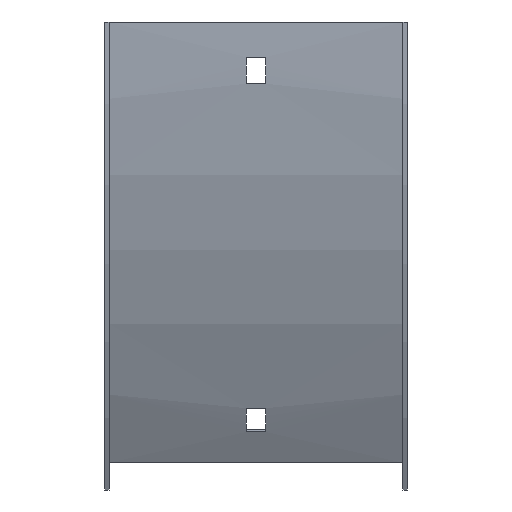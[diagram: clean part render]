
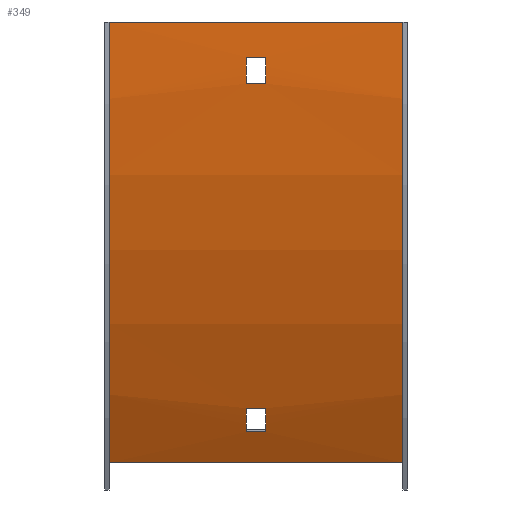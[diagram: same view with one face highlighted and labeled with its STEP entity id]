
A CAD part, front view. The second image highlights one B-rep face of the part: STEP entity #349.
In plain terms, the highlighted cylindrical face has radius 300 mm (diameter 600 mm), a partial arc.
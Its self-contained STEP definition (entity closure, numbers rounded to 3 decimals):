
#5 = LINE ( 'NONE', #237, #200 ) ;
#7 = CARTESIAN_POINT ( 'NONE',  ( 3.25, -1.26, -12. ) ) ;
#11 = DIRECTION ( 'NONE',  ( -1., 0., 0. ) ) ;
#14 = ORIENTED_EDGE ( 'NONE', *, *, #136, .F. ) ;
#15 = CARTESIAN_POINT ( 'NONE',  ( 50., 38.692, -150. ) ) ;
#28 = CIRCLE ( 'NONE', #104, 300. ) ;
#31 = VERTEX_POINT ( 'NONE', #15 ) ;
#36 = AXIS2_PLACEMENT_3D ( 'NONE', #372, #356, #548 ) ;
#38 = DIRECTION ( 'NONE',  ( 1., 0., 0. ) ) ;
#46 = ORIENTED_EDGE ( 'NONE', *, *, #77, .F. ) ;
#49 = CARTESIAN_POINT ( 'NONE',  ( 51.5, 32.9, -139.488 ) ) ;
#53 = ORIENTED_EDGE ( 'NONE', *, *, #341, .F. ) ;
#68 = VERTEX_POINT ( 'NONE', #113 ) ;
#77 = EDGE_CURVE ( 'NONE', #135, #309, #112, .T. ) ;
#78 = VECTOR ( 'NONE', #520, 1000. ) ;
#88 = CARTESIAN_POINT ( 'NONE',  ( -3.25, 32.9, -139.488 ) ) ;
#89 = DIRECTION ( 'NONE',  ( -1., 0., 0. ) ) ;
#92 = LINE ( 'NONE', #429, #78 ) ;
#98 = CARTESIAN_POINT ( 'NONE',  ( 3.25, -0.764, -21. ) ) ;
#104 = AXIS2_PLACEMENT_3D ( 'NONE', #415, #315, #167 ) ;
#105 = CARTESIAN_POINT ( 'NONE',  ( -50., -1.5, 0. ) ) ;
#110 = AXIS2_PLACEMENT_3D ( 'NONE', #186, #11, #571 ) ;
#112 = CIRCLE ( 'NONE', #141, 300. ) ;
#113 = CARTESIAN_POINT ( 'NONE',  ( 50., -1.5, 0. ) ) ;
#122 = ORIENTED_EDGE ( 'NONE', *, *, #468, .F. ) ;
#132 = CARTESIAN_POINT ( 'NONE',  ( -3.25, 298.5, 0. ) ) ;
#134 = DIRECTION ( 'NONE',  ( -1., 0., 0. ) ) ;
#135 = VERTEX_POINT ( 'NONE', #327 ) ;
#136 = EDGE_CURVE ( 'NONE', #498, #401, #92, .T. ) ;
#141 = AXIS2_PLACEMENT_3D ( 'NONE', #326, #428, #197 ) ;
#149 = ORIENTED_EDGE ( 'NONE', *, *, #274, .F. ) ;
#157 = VERTEX_POINT ( 'NONE', #98 ) ;
#161 = EDGE_CURVE ( 'NONE', #541, #330, #28, .T. ) ;
#162 = DIRECTION ( 'NONE',  ( 0., 0., 1. ) ) ;
#167 = DIRECTION ( 'NONE',  ( 0., 0., 1. ) ) ;
#169 = VECTOR ( 'NONE', #270, 1000. ) ;
#178 = DIRECTION ( 'NONE',  ( 1., 0., 0. ) ) ;
#181 = EDGE_CURVE ( 'NONE', #559, #261, #434, .T. ) ;
#184 = CARTESIAN_POINT ( 'NONE',  ( 51.5, 298.5, 0. ) ) ;
#185 = DIRECTION ( 'NONE',  ( 0., 0., 1. ) ) ;
#186 = CARTESIAN_POINT ( 'NONE',  ( -3.25, 298.5, 0. ) ) ;
#197 = DIRECTION ( 'NONE',  ( 0., 0., 1. ) ) ;
#200 = VECTOR ( 'NONE', #178, 1000. ) ;
#209 = ORIENTED_EDGE ( 'NONE', *, *, #161, .T. ) ;
#215 = CARTESIAN_POINT ( 'NONE',  ( 51.5, 28.83, -131.446 ) ) ;
#223 = CARTESIAN_POINT ( 'NONE',  ( 50., 298.5, 0. ) ) ;
#226 = AXIS2_PLACEMENT_3D ( 'NONE', #132, #312, #162 ) ;
#231 = EDGE_CURVE ( 'NONE', #157, #498, #542, .T. ) ;
#236 = ORIENTED_EDGE ( 'NONE', *, *, #181, .T. ) ;
#237 = CARTESIAN_POINT ( 'NONE',  ( 51.5, -0.764, -21. ) ) ;
#245 = LINE ( 'NONE', #525, #496 ) ;
#252 = ORIENTED_EDGE ( 'NONE', *, *, #295, .T. ) ;
#261 = VERTEX_POINT ( 'NONE', #333 ) ;
#269 = ORIENTED_EDGE ( 'NONE', *, *, #442, .T. ) ;
#270 = DIRECTION ( 'NONE',  ( -1., 0., 0. ) ) ;
#274 = EDGE_CURVE ( 'NONE', #31, #135, #245, .T. ) ;
#282 = FACE_BOUND ( 'NONE', #358, .T. ) ;
#295 = EDGE_CURVE ( 'NONE', #68, #309, #476, .T. ) ;
#300 = AXIS2_PLACEMENT_3D ( 'NONE', #223, #134, #185 ) ;
#309 = VERTEX_POINT ( 'NONE', #105 ) ;
#310 = LINE ( 'NONE', #49, #169 ) ;
#312 = DIRECTION ( 'NONE',  ( 1., 0., 0. ) ) ;
#315 = DIRECTION ( 'NONE',  ( 1., 0., 0. ) ) ;
#326 = CARTESIAN_POINT ( 'NONE',  ( -50., 298.5, 0. ) ) ;
#327 = CARTESIAN_POINT ( 'NONE',  ( -50., 38.692, -150. ) ) ;
#330 = VERTEX_POINT ( 'NONE', #381 ) ;
#333 = CARTESIAN_POINT ( 'NONE',  ( -3.25, 28.83, -131.446 ) ) ;
#336 = DIRECTION ( 'NONE',  ( -1., 0., 0. ) ) ;
#341 = EDGE_CURVE ( 'NONE', #568, #157, #5, .T. ) ;
#349 = ADVANCED_FACE ( 'NONE', ( #420, #365, #282 ), #473, .T. ) ;
#356 = DIRECTION ( 'NONE',  ( -1., 0., 0. ) ) ;
#358 = EDGE_LOOP ( 'NONE', ( #537, #236, #269, #209 ) ) ;
#361 = CARTESIAN_POINT ( 'NONE',  ( 3.25, 28.83, -131.446 ) ) ;
#365 = FACE_OUTER_BOUND ( 'NONE', #491, .T. ) ;
#372 = CARTESIAN_POINT ( 'NONE',  ( 3.25, 298.5, 0. ) ) ;
#381 = CARTESIAN_POINT ( 'NONE',  ( 3.25, 32.9, -139.488 ) ) ;
#395 = ORIENTED_EDGE ( 'NONE', *, *, #231, .F. ) ;
#401 = VERTEX_POINT ( 'NONE', #595 ) ;
#404 = CIRCLE ( 'NONE', #300, 300. ) ;
#415 = CARTESIAN_POINT ( 'NONE',  ( 3.25, 298.5, 0. ) ) ;
#420 = FACE_BOUND ( 'NONE', #437, .T. ) ;
#427 = DIRECTION ( 'NONE',  ( 0., 0., 1. ) ) ;
#428 = DIRECTION ( 'NONE',  ( -1., 0., 0. ) ) ;
#429 = CARTESIAN_POINT ( 'NONE',  ( 51.5, -1.26, -12. ) ) ;
#434 = CIRCLE ( 'NONE', #110, 300. ) ;
#437 = EDGE_LOOP ( 'NONE', ( #122, #14, #395, #53 ) ) ;
#442 = EDGE_CURVE ( 'NONE', #261, #541, #451, .T. ) ;
#451 = LINE ( 'NONE', #215, #475 ) ;
#457 = CARTESIAN_POINT ( 'NONE',  ( -3.25, -0.764, -21. ) ) ;
#462 = VECTOR ( 'NONE', #531, 1000. ) ;
#468 = EDGE_CURVE ( 'NONE', #401, #568, #485, .T. ) ;
#473 = CYLINDRICAL_SURFACE ( 'NONE', #590, 300. ) ;
#475 = VECTOR ( 'NONE', #38, 1000. ) ;
#476 = LINE ( 'NONE', #581, #462 ) ;
#485 = CIRCLE ( 'NONE', #226, 300. ) ;
#491 = EDGE_LOOP ( 'NONE', ( #46, #149, #588, #252 ) ) ;
#496 = VECTOR ( 'NONE', #336, 1000. ) ;
#498 = VERTEX_POINT ( 'NONE', #7 ) ;
#505 = EDGE_CURVE ( 'NONE', #31, #68, #404, .T. ) ;
#520 = DIRECTION ( 'NONE',  ( -1., 0., 0. ) ) ;
#525 = CARTESIAN_POINT ( 'NONE',  ( 50., 38.692, -150. ) ) ;
#531 = DIRECTION ( 'NONE',  ( -1., 0., 0. ) ) ;
#537 = ORIENTED_EDGE ( 'NONE', *, *, #565, .T. ) ;
#541 = VERTEX_POINT ( 'NONE', #361 ) ;
#542 = CIRCLE ( 'NONE', #36, 300. ) ;
#548 = DIRECTION ( 'NONE',  ( 0., 0., -1. ) ) ;
#559 = VERTEX_POINT ( 'NONE', #88 ) ;
#565 = EDGE_CURVE ( 'NONE', #330, #559, #310, .T. ) ;
#568 = VERTEX_POINT ( 'NONE', #457 ) ;
#571 = DIRECTION ( 'NONE',  ( 0., 0., -1. ) ) ;
#581 = CARTESIAN_POINT ( 'NONE',  ( 50., -1.5, 0. ) ) ;
#588 = ORIENTED_EDGE ( 'NONE', *, *, #505, .T. ) ;
#590 = AXIS2_PLACEMENT_3D ( 'NONE', #184, #89, #427 ) ;
#595 = CARTESIAN_POINT ( 'NONE',  ( -3.25, -1.26, -12. ) ) ;
